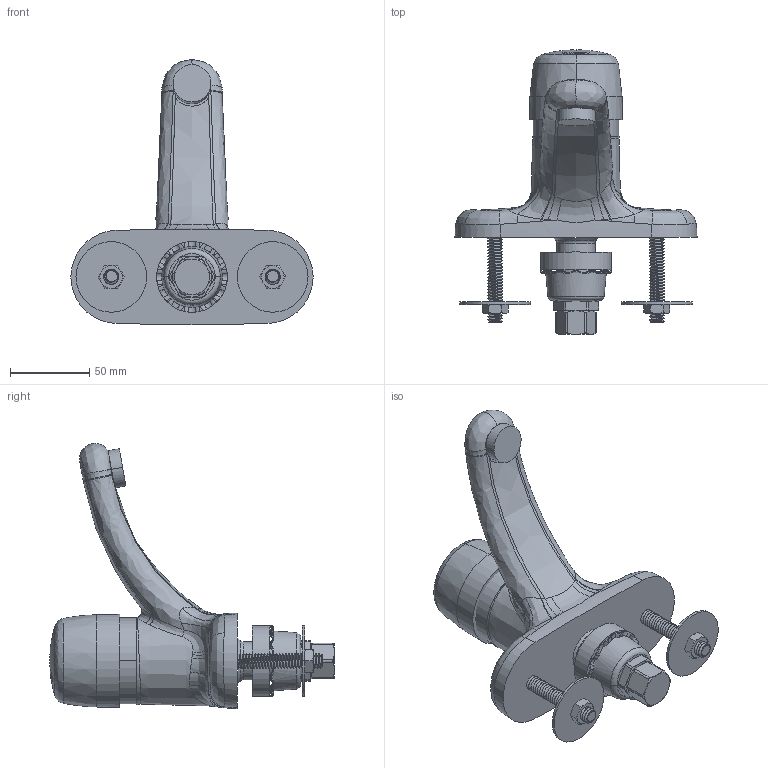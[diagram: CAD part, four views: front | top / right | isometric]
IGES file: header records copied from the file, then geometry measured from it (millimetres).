
Start section:  PTC IGES file: 3400-ABCP_REV031110.igs
Global section: file name: 3400-ABCP_REV031110.igs; native system: Pro/ENGINEER by Parametric Technology Corporation; preprocessor: 2009230; author: sdmitruk; organization: Unknown; date: 20100311.105755; units: inch
Bounding box: 152.4 x 179.08 x 166.85 mm (x, y, z)
Surface area: 87067.7 mm2 (no closed solid volume)
Topology: 0 solids, 47 shells, 599 faces, 1951 edges, 1372 vertices
Faces by surface type: revolution 372, bspline 221, extrusion 6
